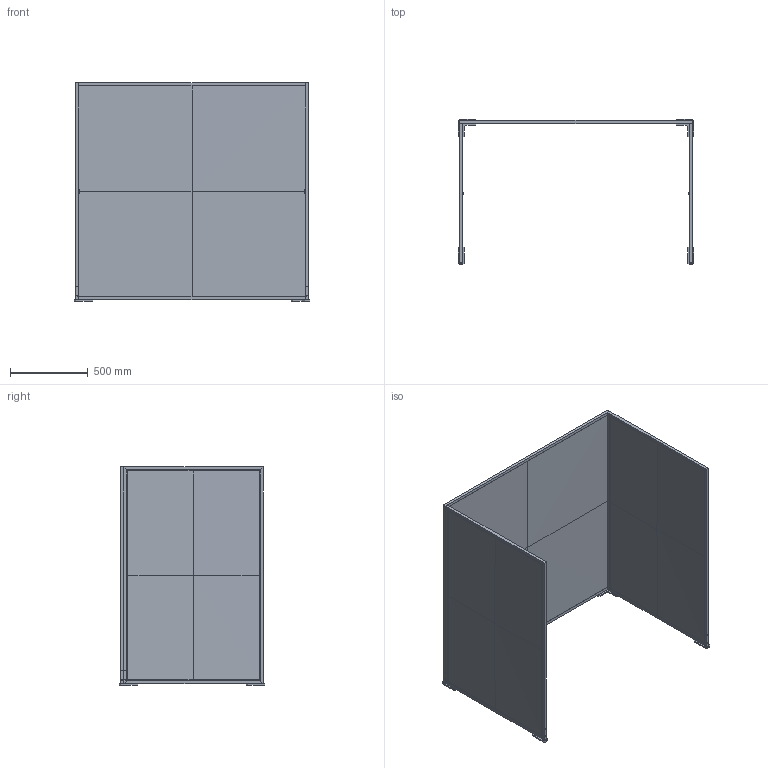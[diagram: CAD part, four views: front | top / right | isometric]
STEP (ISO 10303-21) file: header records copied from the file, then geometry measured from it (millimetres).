
FILE_DESCRIPTION(/* description */ (''),/* implementation_level */ '2;1');
FILE_NAME(/* name */ 'SL-WALL,UM',/* time_stamp */ '2021-10-22T15:09:56+02:00',/* author */ (''),/* organization */ (''),/* preprocessor_version */ 'ST-DEVELOPER v16.5',/* originating_system */ '',/* authorisation */ '');
FILE_SCHEMA (('CONFIG_CONTROL_DESIGN'));
Length unit declared in the file: millimetre
Products named in the file (1): Document
Bounding box: 1520 x 940.75 x 1408 mm (x, y, z)
Volume: 202053.1 mm3; surface area: 10041782.9 mm2
Topology: 4 solids, 25 shells, 240 faces, 579 edges, 378 vertices
Faces by surface type: plane 196, bspline 24, cylinder 20
Entity records: 7249 total; most frequent: CARTESIAN_POINT 3111, ORIENTED_EDGE 1080, EDGE_CURVE 576, B_SPLINE_CURVE_WITH_KNOTS 514, VERTEX_POINT 374, EDGE_LOOP 264, ADVANCED_FACE 240, FACE_OUTER_BOUND 240
